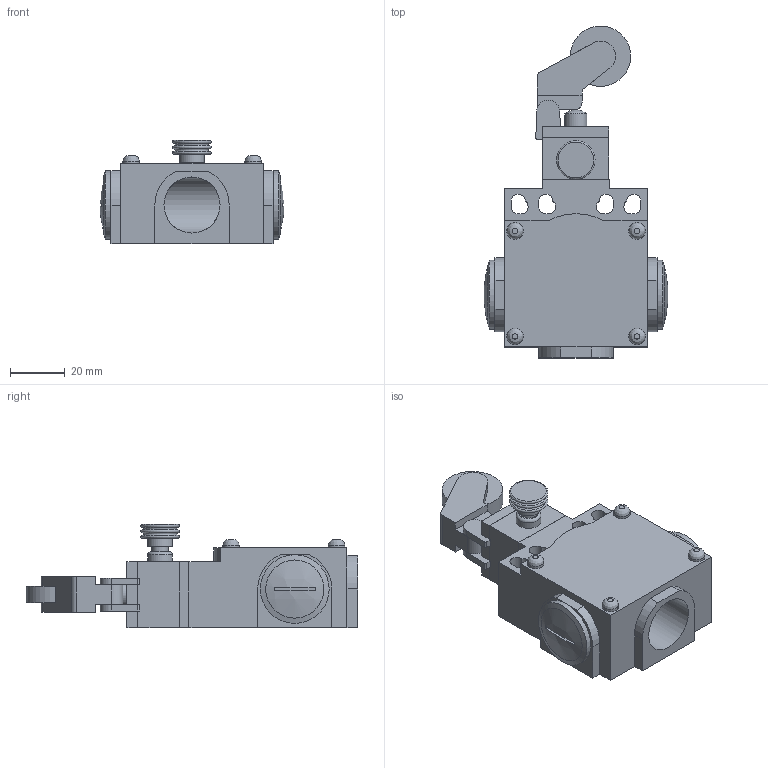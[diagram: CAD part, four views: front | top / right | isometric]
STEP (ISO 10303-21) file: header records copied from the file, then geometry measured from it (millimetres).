
FILE_DESCRIPTION((''),'2;1');
FILE_NAME('D:\Documenti_D\Corrispondenza\Comepi\Catalogo da fare\Modelli Nov 2011\DM e CM\STEP\DM1-R38.iam.step','2011-11-17T12:01:22',(''),(''),'Autodesk Inventor 2010','Autodesk Inventor 2010','');
FILE_SCHEMA(('AUTOMOTIVE_DESIGN { 1 0 10303 214 1 1 1 1 }'));
Length unit declared in the file: millimetre
Products named in the file (9): DM1-R38; DM1; tappo; R38.iam; T38_1; T38_2; T38_3; R
Assembly tree (9 placements, depth 3):
  DM1-R38
    DM1
      DM1
      tappo  x2
    R38.iam
      T38_1
      T38_2
      T38_3
      R
Bounding box: 66.83 x 120.8 x 37.5 mm (x, y, z)
Volume: 88077.5 mm3; surface area: 29606.4 mm2
Topology: 7 solids, 7 shells, 152 faces, 373 edges, 244 vertices
Faces by surface type: plane 94, cylinder 42, torus 6, bspline 4, cone 3, sphere 3
Full cylindrical faces by diameter (mm): 6 x5, 8 x2, 9 x2, 20.4 x2, 25 x2
Entity records: 4624 total; most frequent: CARTESIAN_POINT 972, DIRECTION 738, ORIENTED_EDGE 656, EDGE_CURVE 328, AXIS2_PLACEMENT_3D 255, VERTEX_POINT 229, VECTOR 228, LINE 228
